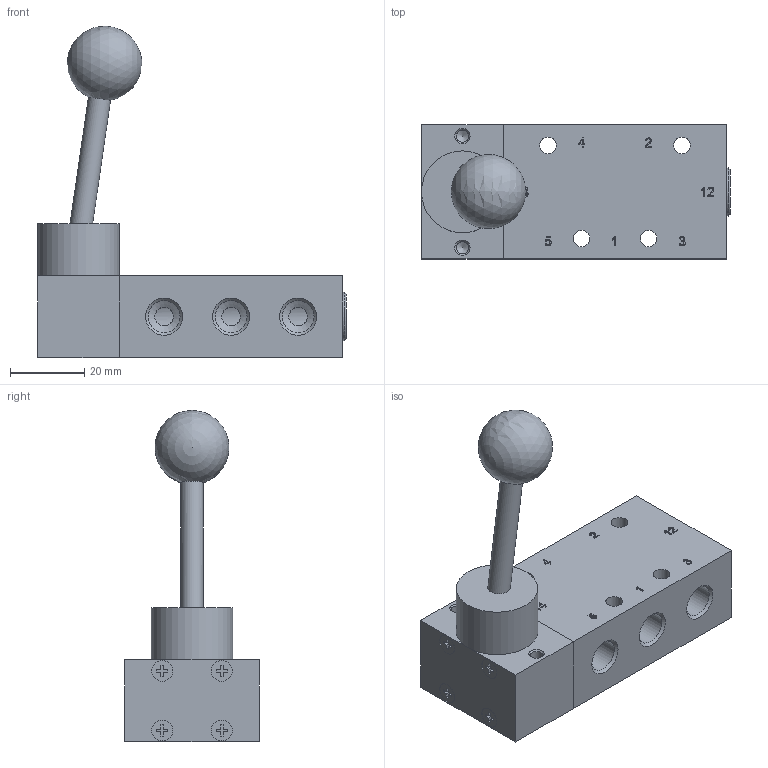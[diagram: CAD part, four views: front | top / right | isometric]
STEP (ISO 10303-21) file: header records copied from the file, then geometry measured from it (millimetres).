
FILE_DESCRIPTION(/* description */ ('Unknown','CAx-IF Rec.Pracs.---Representation and Presentation of Product Manufacturing Information (PMI)---4.0---2014-10-13','CAx-IF Rec.Pracs.---3D Tessellated Geometry---0.4---2014-09-14','2;1'),/* implementation_level */ '2;1');
FILE_NAME(/* name */ 'HV 511 501',/* time_stamp */ '2020-07-03T13:28:26+02:00',/* author */ ('Unknown'),/* organization */ ('Unknown'),/* preprocessor_version */ 'ST-DEVELOPER v16.7',/* originating_system */ 'DEX',/* authorisation */ $);
FILE_SCHEMA (('AP242_MANAGED_MODEL_BASED_3D_ENGINEERING_MIM_LF { 1 0 10303 442 20130219 1 4 }'));
Length unit declared in the file: millimetre
Products named in the file (2): HV 511 501
Assembly tree (1 placements, depth 2):
  HV 511 501
    HV 511 501
Bounding box: 83 x 36 x 88.97 mm (x, y, z)
Volume: 62501.9 mm3; surface area: 21822.7 mm2
Topology: 3 solids, 7 shells, 385 faces, 1010 edges, 669 vertices
Faces by surface type: plane 224, bspline 71, cylinder 57, cone 31, sphere 1, torus 1
Full cylindrical faces by diameter (mm): 1.6 x1, 2.459 x8, 3.3 x2, 4.5 x4, 5 x5, 5.6 x4, 6 x1, 8.566 x10, 9 x1, 10 x1, 12 x2, 12.06 x1, 13 x1, 22 x1
Entity records: 14646 total; most frequent: CARTESIAN_POINT 3416, ORIENTED_EDGE 1782, DIRECTION 1491, EDGE_CURVE 891, VERTEX_POINT 635, LINE 615, VECTOR 615, FACE_BOUND 522
